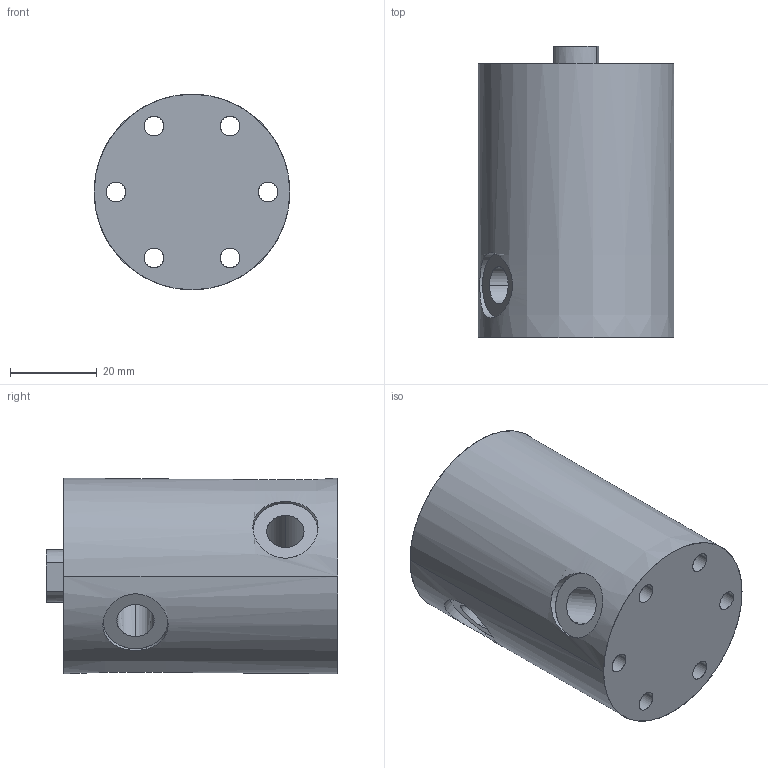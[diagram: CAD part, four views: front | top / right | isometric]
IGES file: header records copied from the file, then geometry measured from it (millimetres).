
Start section: SolidWorks IGES file using analytic representation for surfaces
Global section: file name: D:\abhilash\nijil\cylinder\Clasys1\COMPACT CYLINDER\od 45\pt\od 45low block cyl assys.IGS; native system: SolidWorks 2010; preprocessor: SolidWorks 2010; author: nidheesh; date: 130730.122135; units: millimetre
Bounding box: 45 x 67 x 45 mm (x, y, z)
Surface area: 20632.2 mm2 (no closed solid volume)
Topology: 0 solids, 0 shells, 53 faces, 1490 edges, 1490 vertices
Faces by surface type: revolution 38, bspline 15
